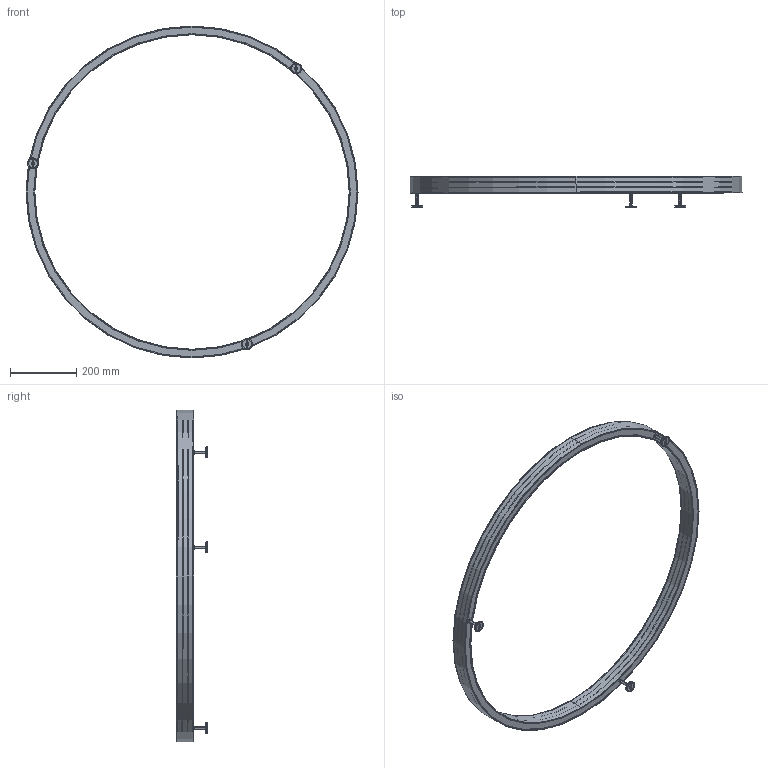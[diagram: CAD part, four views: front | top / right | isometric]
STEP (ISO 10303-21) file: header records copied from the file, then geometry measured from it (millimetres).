
FILE_DESCRIPTION (( 'STEP AP203' ), '1' );
FILE_NAME ('Zirkol C wall 1M.STEP', '2022-02-02T15:31:53', ( '' ), ( '' ), 'SwSTEP 2.0', 'SolidWorks 2016', '' );
FILE_SCHEMA (( 'CONFIG_CONTROL_DESIGN' ));
Length unit declared in the file: millimetre
Products named in the file (10): bullone_2; Zirkol C 1M; 0-MOD-0008-1-00_2; Distanziale_2; Zirkol C wall 1M; Schemo 1 M; Tigie corta; 0-MOD-0007-0-00_2; Schemo 1 M Direct; 0-CER-0043-0-00
Assembly tree (21 placements, depth 2):
  Zirkol C wall 1M
    0-MOD-0007-0-00_2  x3
    0-MOD-0008-1-00_2  x3
    Distanziale_2  x3
    bullone_2  x3
    Schemo 1 M
    Zirkol C 1M
    Schemo 1 M Direct
    0-CER-0043-0-00  x3
    Tigie corta  x3
Bounding box: 1000.08 x 93.98 x 1000.04 mm (x, y, z)
Volume: 1118639.2 mm3; surface area: 1259392.6 mm2
Topology: 21 solids, 22 shells, 624 faces, 1446 edges, 902 vertices
Faces by surface type: cylinder 282, plane 167, torus 96, cone 46, bspline 33
Entity records: 13740 total; most frequent: CARTESIAN_POINT 4831, DIRECTION 1752, ORIENTED_EDGE 1484, AXIS2_PLACEMENT_3D 758, EDGE_CURVE 742, VERTEX_POINT 450, CIRCLE 409, EDGE_LOOP 390
